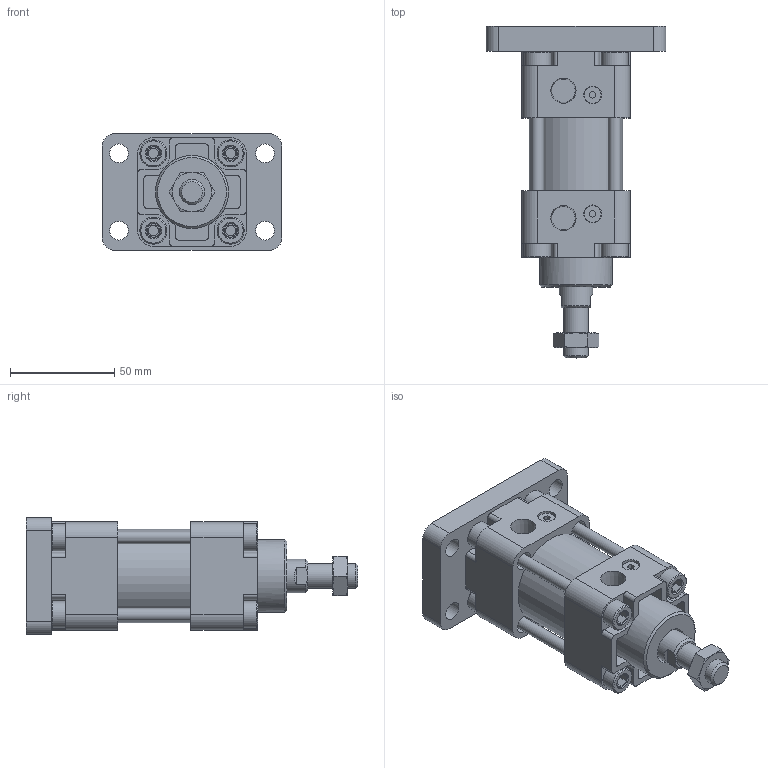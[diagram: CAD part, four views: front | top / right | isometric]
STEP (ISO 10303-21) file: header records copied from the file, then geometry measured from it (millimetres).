
FILE_DESCRIPTION(/* description */ ('Unknown'),/* implementation_level */ '2;1');
FILE_NAME(/* name */ 'WA40-FB',/* time_stamp */ '2026-07-17T16:48:29+08:00',/* author */ ('Unknown'),/* organization */ ('Unknown'),/* preprocessor_version */ 'ST-DEVELOPER v16.7',/* originating_system */ 'DEX',/* authorisation */ $);
FILE_SCHEMA (('CONFIG_CONTROL_DESIGN'));
Length unit declared in the file: millimetre
Products named in the file (8): WA40-FB; WA40_前; WA40_後; WA40_鋁; WA40_心軸活ionRefs; WA40_T帽牙T; WA40_FA; M12-1.25P-7_螺
Assembly tree (10 placements, depth 2):
  WA40-FB
    WA40_前
    WA40_後
    WA40_鋁
    WA40_心軸活ionRefs
    WA40_T帽牙T  x4
    WA40_FA
    M12-1.25P-7_螺
Bounding box: 86 x 159 x 56 mm (x, y, z)
Volume: 270374 mm3; surface area: 85109.9 mm2
Topology: 10 solids, 10 shells, 371 faces, 888 edges, 598 vertices
Faces by surface type: plane 215, cylinder 119, cone 37
Full cylindrical faces by diameter (mm): 5 x8, 6 x4, 7 x4, 8 x2, 8.5 x2, 8.8 x8, 9 x12, 10.647 x1, 11 x4, 12 x1, 13 x8, 16 x2, 35 x1, 36 x1, 39.5 x1, 40 x3, 45 x1
Entity records: 9367 total; most frequent: CARTESIAN_POINT 1367, DIRECTION 1348, ORIENTED_EDGE 1174, EDGE_CURVE 587, AXIS2_PLACEMENT_3D 512, VERTEX_POINT 419, EDGE_LOOP 390, FACE_BOUND 390
